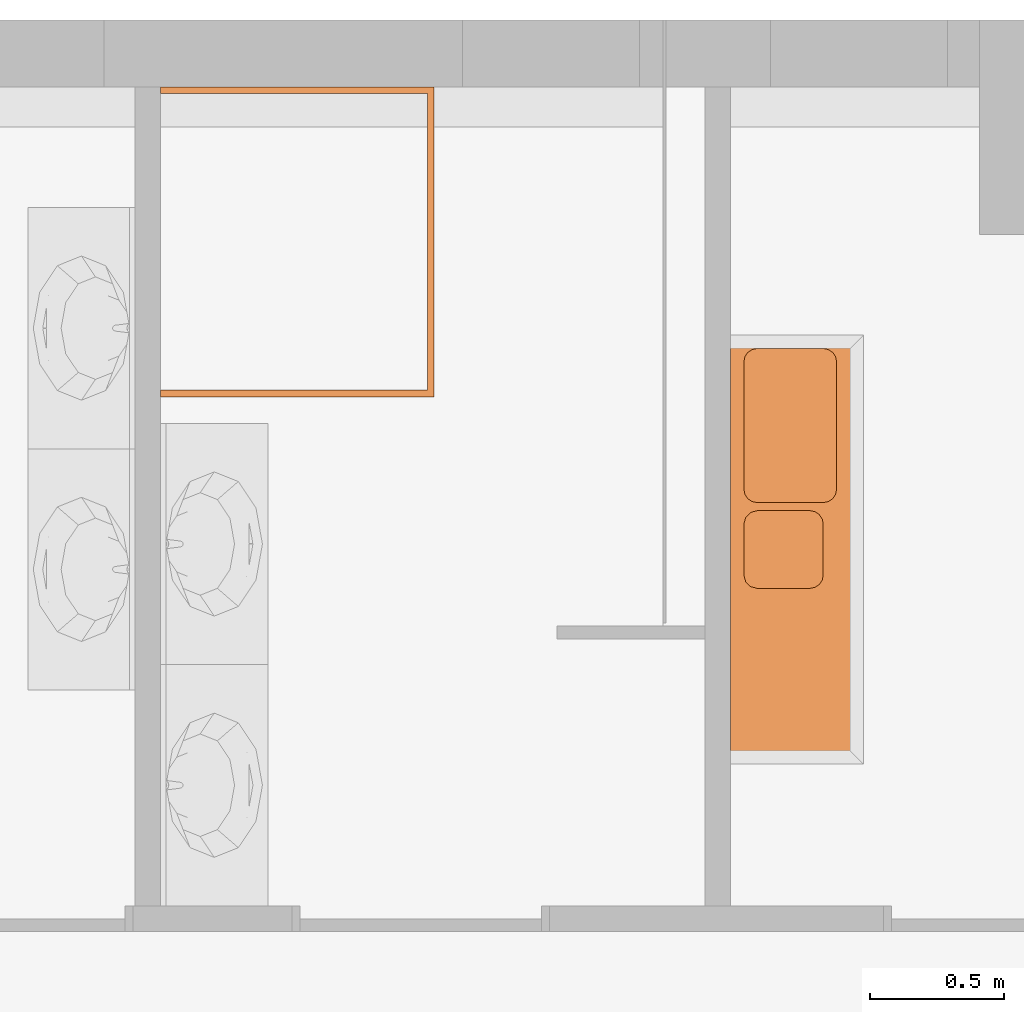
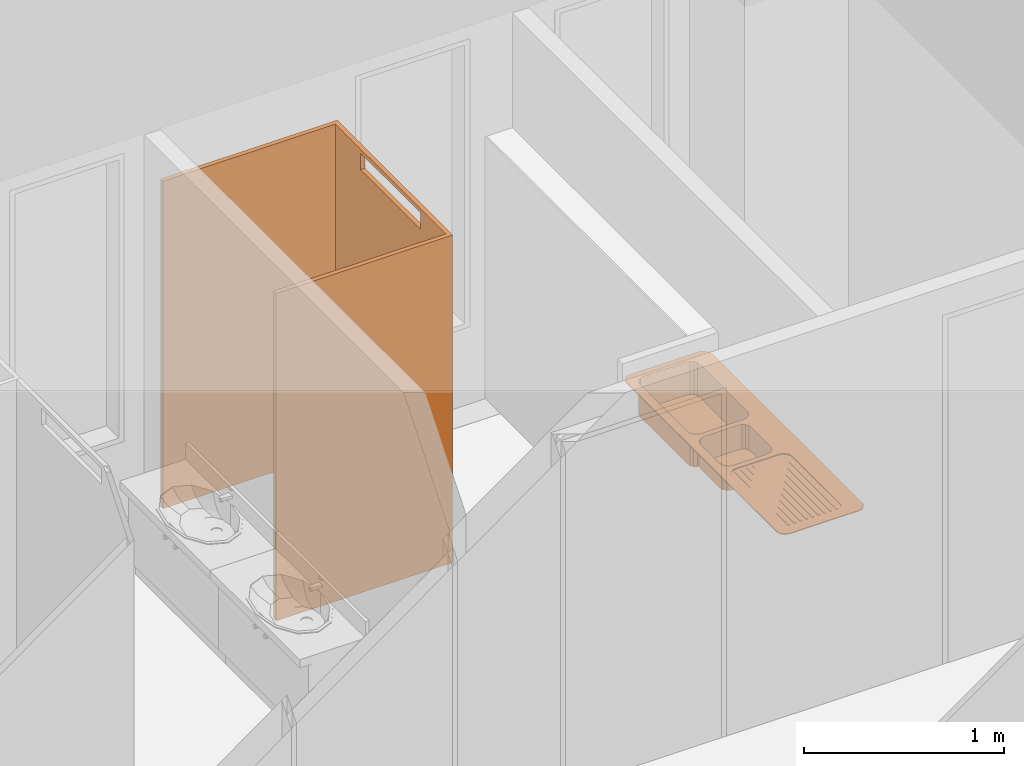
# One storey, part 14 of 14: 2 proxies.
"""IFC2X3 building model written with IfcOpenShell, lengths in millimetres."""

from ifc_helpers import new_model, entity, si_unit, converted_unit, direction, frame, origin_with_axes, place, context, project, spatial, open_shell, faceted_brep, surface_model, material, element, save


model = new_model("IFC2X3")

# Units and contexts
model_context = context("Model", 3, precision=1e-05, world=origin_with_axes(), true_north=direction((0.0, 1.0)))
ifc_project = project(units=[si_unit("LENGTHUNIT", "METRE", prefix="MILLI"), si_unit("AREAUNIT", "SQUARE_METRE"), si_unit("VOLUMEUNIT", "CUBIC_METRE"), converted_unit("PLANEANGLEUNIT", "DEGREE", entity("IfcPlaneAngleMeasure", 0.017453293), si_unit("PLANEANGLEUNIT", "RADIAN"), dimensions=[0, 0, 0, 0, 0, 0, 0]), si_unit("SOLIDANGLEUNIT", "STERADIAN"), si_unit("MASSUNIT", "GRAM"), si_unit("TIMEUNIT", "SECOND"), si_unit("THERMODYNAMICTEMPERATUREUNIT", "DEGREE_CELSIUS"), si_unit("LUMINOUSINTENSITYUNIT", "LUMEN")], contexts=[model_context])

# Site, building, storey
site_placement = place(None, origin_with_axes())
site = spatial("IfcSite", under=ifc_project, at=site_placement, Name="\x83T\x83C\x83g", CompositionType="ELEMENT")
building_placement = place(site_placement, origin_with_axes())
building = spatial("IfcBuilding", under=site, at=building_placement, Name="Daitec-Sample 201208", CompositionType="ELEMENT")
storey_placement = place(building_placement, frame((0.0, 0.0, 8000.0), z_axis=(0.0, 0.0, 1.0), x_axis=(1.0, 0.0, 0.0)))
storey = spatial("IfcBuildingStorey", under=building, at=storey_placement, Name="3F", CompositionType="ELEMENT", Elevation=8000.0)

# Proxies
ifc_material = material(Name="\x94w\x8ci")
proxy_1_placement = place(storey_placement, frame((23171.218, 22624.447, 0.0), z_axis=(0.0, 0.0, 1.0), x_axis=(0.0, -1.0, 0.0)))
element("IfcBuildingElementProxy", 1, at=proxy_1_placement, inside=storey, material=ifc_material, Name="O5", context=model_context, shape_type="SurfaceModel", body=[
    faceted_brep([(50.0, 0.0, 600.0), (1550.0, 0.0, 600.0), (1550.0, 0.0, 605.0), (50.0, 0.0, 605.0), (30.865828, 3.8060234, 600.0), (14.644661, 14.644661, 600.0), (3.8060234, 30.865828, 600.0), (0.0, 50.0, 600.0), (0.0, 446.05787, 600.0), (3.8060234, 465.19204, 600.0), (14.644661, 481.41321, 600.0), (30.865828, 492.25185, 600.0), (50.0, 496.05787, 600.0), (1550.0, 496.05787, 600.0), (1569.1342, 492.25185, 600.0), (1585.3553, 481.41321, 600.0), (1596.194, 465.19204, 600.0), (1600.0, 446.05787, 600.0), (1600.0, 50.0, 600.0), (1593.3013, 25.0, 600.0), (1575.0, 6.6987298, 600.0), (100.0, 50.0, 600.0), (575.0, 50.0, 600.0), (594.13417, 53.806023, 600.0), (610.35534, 64.644661, 600.0), (621.19398, 80.865828, 600.0), (625.0, 100.0, 600.0), (625.0, 346.05787, 600.0), (621.19398, 365.19204, 600.0), (610.35534, 381.41321, 600.0), (594.13417, 392.25185, 600.0), (575.0, 396.05787, 600.0), (100.0, 396.05787, 600.0), (80.865828, 392.25185, 600.0), (64.644661, 381.41321, 600.0), (53.806023, 365.19204, 600.0), (50.0, 346.05787, 600.0), (50.0, 100.0, 600.0), (53.806023, 80.865828, 600.0), (64.644661, 64.644661, 600.0), (80.865828, 53.806023, 600.0), (705.0, 50.0, 600.0), (895.0, 50.0, 600.0), (920.0, 56.69873, 600.0), (938.30127, 75.0, 600.0), (945.0, 100.0, 600.0), (945.0, 296.05787, 600.0), (941.19398, 315.19204, 600.0), (930.35534, 331.41321, 600.0), (914.13417, 342.25185, 600.0), (895.0, 346.05787, 600.0), (705.0, 346.05787, 600.0), (685.86583, 342.25185, 600.0), (669.64466, 331.41321, 600.0), (658.80602, 315.19204, 600.0), (655.0, 296.05787, 600.0), (655.0, 100.0, 600.0), (661.69873, 75.0, 600.0), (680.0, 56.69873, 600.0), (1025.0, 50.0, 600.0), (1500.0, 50.0, 600.0), (1525.0, 56.69873, 600.0), (1543.3013, 75.0, 600.0), (1550.0, 100.0, 600.0), (1550.0, 346.05787, 600.0), (1546.194, 365.19204, 600.0), (1535.3553, 381.41321, 600.0), (1519.1342, 392.25185, 600.0), (1500.0, 396.05787, 600.0), (1025.0, 396.05787, 600.0), (1000.0, 389.35914, 600.0), (981.69873, 371.05787, 600.0), (975.0, 346.05787, 600.0), (975.0, 100.0, 600.0), (978.80602, 80.865828, 600.0), (989.64466, 64.644661, 600.0), (1005.8658, 53.806023, 600.0), (1575.0, 6.6987298, 605.0), (1593.3013, 25.0, 605.0), (1600.0, 50.0, 605.0), (1600.0, 446.05787, 605.0), (1596.194, 465.19204, 605.0), (1585.3553, 481.41321, 605.0), (1569.1342, 492.25185, 605.0), (1550.0, 496.05787, 605.0), (50.0, 496.05787, 605.0), (30.865828, 492.25185, 605.0), (14.644661, 481.41321, 605.0), (3.8060234, 465.19204, 605.0), (0.0, 446.05787, 605.0), (0.0, 50.0, 605.0), (3.8060234, 30.865828, 605.0), (14.644661, 14.644661, 605.0), (30.865828, 3.8060234, 605.0), (100.0, 50.0, 605.0), (80.865828, 53.806023, 605.0), (64.644661, 64.644661, 605.0), (53.806023, 80.865828, 605.0), (50.0, 100.0, 605.0), (50.0, 346.05787, 605.0), (53.806023, 365.19204, 605.0), (64.644661, 381.41321, 605.0), (80.865828, 392.25185, 605.0), (100.0, 396.05787, 605.0), (575.0, 396.05787, 605.0), (594.13417, 392.25185, 605.0), (610.35534, 381.41321, 605.0), (621.19398, 365.19204, 605.0), (625.0, 346.05787, 605.0), (625.0, 100.0, 605.0), (621.19398, 80.865828, 605.0), (610.35534, 64.644661, 605.0), (594.13417, 53.806023, 605.0), (575.0, 50.0, 605.0), (705.0, 50.0, 605.0), (680.0, 56.69873, 605.0), (661.69873, 75.0, 605.0), (655.0, 100.0, 605.0), (655.0, 296.05787, 605.0), (658.80602, 315.19204, 605.0), (669.64466, 331.41321, 605.0), (685.86583, 342.25185, 605.0), (705.0, 346.05787, 605.0), (895.0, 346.05787, 605.0), (914.13417, 342.25185, 605.0), (930.35534, 331.41321, 605.0), (941.19398, 315.19204, 605.0), (945.0, 296.05787, 605.0), (945.0, 100.0, 605.0), (938.30127, 75.0, 605.0), (920.0, 56.69873, 605.0), (895.0, 50.0, 605.0), (1025.0, 50.0, 605.0), (1005.8658, 53.806023, 605.0), (989.64466, 64.644661, 605.0), (978.80602, 80.865828, 605.0), (975.0, 100.0, 605.0), (975.0, 346.05787, 605.0), (981.69873, 371.05787, 605.0), (1000.0, 389.35914, 605.0), (1025.0, 396.05787, 605.0), (1500.0, 396.05787, 605.0), (1519.1342, 392.25185, 605.0), (1535.3553, 381.41321, 605.0), (1546.194, 365.19204, 605.0), (1550.0, 346.05787, 605.0), (1550.0, 100.0, 605.0), (1543.3013, 75.0, 605.0), (1525.0, 56.69873, 605.0), (1500.0, 50.0, 605.0)], [[[0, 1, 2, 3]], [[0, 4, 5, 6, 7, 8, 9, 10, 11, 12, 13, 14, 15, 16, 17, 18, 19, 20, 1], [21, 22, 23, 24, 25, 26, 27, 28, 29, 30, 31, 32, 33, 34, 35, 36, 37, 38, 39, 40], [41, 42, 43, 44, 45, 46, 47, 48, 49, 50, 51, 52, 53, 54, 55, 56, 57, 58], [59, 60, 61, 62, 63, 64, 65, 66, 67, 68, 69, 70, 71, 72, 73, 74, 75, 76]], [[1, 20, 77, 2]], [[3, 2, 77, 78, 79, 80, 81, 82, 83, 84, 85, 86, 87, 88, 89, 90, 91, 92, 93], [94, 95, 96, 97, 98, 99, 100, 101, 102, 103, 104, 105, 106, 107, 108, 109, 110, 111, 112, 113], [114, 115, 116, 117, 118, 119, 120, 121, 122, 123, 124, 125, 126, 127, 128, 129, 130, 131], [132, 133, 134, 135, 136, 137, 138, 139, 140, 141, 142, 143, 144, 145, 146, 147, 148, 149]], [[4, 0, 3, 93]], [[5, 4, 93, 92]], [[6, 5, 92, 91]], [[7, 6, 91, 90]], [[8, 7, 90, 89]], [[9, 8, 89, 88]], [[10, 9, 88, 87]], [[11, 10, 87, 86]], [[12, 11, 86, 85]], [[13, 12, 85, 84]], [[14, 13, 84, 83]], [[15, 14, 83, 82]], [[16, 15, 82, 81]], [[17, 16, 81, 80]], [[18, 17, 80, 79]], [[19, 18, 79, 78]], [[20, 19, 78, 77]], [[22, 21, 94, 113]], [[23, 22, 113, 112]], [[24, 23, 112, 111]], [[25, 24, 111, 110]], [[26, 25, 110, 109]], [[27, 26, 109, 108]], [[28, 27, 108, 107]], [[29, 28, 107, 106]], [[30, 29, 106, 105]], [[31, 30, 105, 104]], [[32, 31, 104, 103]], [[33, 32, 103, 102]], [[34, 33, 102, 101]], [[35, 34, 101, 100]], [[36, 35, 100, 99]], [[37, 36, 99, 98]], [[38, 37, 98, 97]], [[39, 38, 97, 96]], [[40, 39, 96, 95]], [[21, 40, 95, 94]], [[42, 41, 114, 131]], [[43, 42, 131, 130]], [[44, 43, 130, 129]], [[45, 44, 129, 128]], [[46, 45, 128, 127]], [[47, 46, 127, 126]], [[48, 47, 126, 125]], [[49, 48, 125, 124]], [[50, 49, 124, 123]], [[51, 50, 123, 122]], [[52, 51, 122, 121]], [[53, 52, 121, 120]], [[54, 53, 120, 119]], [[55, 54, 119, 118]], [[56, 55, 118, 117]], [[57, 56, 117, 116]], [[58, 57, 116, 115]], [[41, 58, 115, 114]], [[60, 59, 132, 149]], [[61, 60, 149, 148]], [[62, 61, 148, 147]], [[63, 62, 147, 146]], [[64, 63, 146, 145]], [[65, 64, 145, 144]], [[66, 65, 144, 143]], [[67, 66, 143, 142]], [[68, 67, 142, 141]], [[69, 68, 141, 140]], [[70, 69, 140, 139]], [[71, 70, 139, 138]], [[72, 71, 138, 137]], [[73, 72, 137, 136]], [[74, 73, 136, 135]], [[75, 74, 135, 134]], [[76, 75, 134, 133]], [[59, 76, 133, 132]]]),
    faceted_brep([(1025.0, 50.0, 595.0), (1500.0, 50.0, 595.0), (1500.0, 50.0, 600.0), (1025.0, 50.0, 600.0), (1005.8658, 53.806023, 595.0), (989.64466, 64.644661, 595.0), (978.80602, 80.865828, 595.0), (975.0, 100.0, 595.0), (975.0, 346.05787, 595.0), (981.69873, 371.05787, 595.0), (1000.0, 389.35914, 595.0), (1025.0, 396.05787, 595.0), (1500.0, 396.05787, 595.0), (1519.1342, 392.25185, 595.0), (1535.3553, 381.41321, 595.0), (1546.194, 365.19204, 595.0), (1550.0, 346.05787, 595.0), (1550.0, 100.0, 595.0), (1543.3013, 75.0, 595.0), (1525.0, 56.69873, 595.0), (1525.0, 56.69873, 600.0), (1543.3013, 75.0, 600.0), (1550.0, 100.0, 600.0), (1550.0, 346.05787, 600.0), (1546.194, 365.19204, 600.0), (1535.3553, 381.41321, 600.0), (1519.1342, 392.25185, 600.0), (1500.0, 396.05787, 600.0), (1025.0, 396.05787, 600.0), (1000.0, 389.35914, 600.0), (981.69873, 371.05787, 600.0), (975.0, 346.05787, 600.0), (975.0, 100.0, 600.0), (978.80602, 80.865828, 600.0), (989.64466, 64.644661, 600.0), (1005.8658, 53.806023, 600.0)], [[[0, 1, 2, 3]], [[0, 4, 5, 6, 7, 8, 9, 10, 11, 12, 13, 14, 15, 16, 17, 18, 19, 1]], [[1, 19, 20, 2]], [[3, 2, 20, 21, 22, 23, 24, 25, 26, 27, 28, 29, 30, 31, 32, 33, 34, 35]], [[4, 0, 3, 35]], [[5, 4, 35, 34]], [[6, 5, 34, 33]], [[7, 6, 33, 32]], [[8, 7, 32, 31]], [[9, 8, 31, 30]], [[10, 9, 30, 29]], [[11, 10, 29, 28]], [[12, 11, 28, 27]], [[13, 12, 27, 26]], [[14, 13, 26, 25]], [[15, 14, 25, 24]], [[16, 15, 24, 23]], [[17, 16, 23, 22]], [[18, 17, 22, 21]], [[19, 18, 21, 20]]]),
    faceted_brep([(995.0, 80.0, 600.0), (1530.0, 80.0, 600.0), (1530.0, 80.0, 602.0), (995.0, 80.0, 602.0), (995.0, 90.0, 600.0), (1530.0, 90.0, 600.0), (1530.0, 90.0, 602.0), (995.0, 90.0, 602.0)], [[[0, 1, 2, 3]], [[0, 4, 5, 1]], [[1, 5, 6, 2]], [[3, 2, 6, 7]], [[4, 0, 3, 7]], [[5, 4, 7, 6]]]),
    faceted_brep([(995.0, 114.83034, 600.0), (1530.0, 114.83034, 600.0), (1530.0, 114.83034, 602.0), (995.0, 114.83034, 602.0), (995.0, 124.83034, 600.0), (1530.0, 124.83034, 600.0), (1530.0, 124.83034, 602.0), (995.0, 124.83034, 602.0)], [[[0, 1, 2, 3]], [[0, 4, 5, 1]], [[1, 5, 6, 2]], [[3, 2, 6, 7]], [[4, 0, 3, 7]], [[5, 4, 7, 6]]]),
    faceted_brep([(995.0, 149.66068, 600.0), (1530.0, 149.66068, 600.0), (1530.0, 149.66068, 602.0), (995.0, 149.66068, 602.0), (995.0, 159.66068, 600.0), (1530.0, 159.66068, 600.0), (1530.0, 159.66068, 602.0), (995.0, 159.66068, 602.0)], [[[0, 1, 2, 3]], [[0, 4, 5, 1]], [[1, 5, 6, 2]], [[3, 2, 6, 7]], [[4, 0, 3, 7]], [[5, 4, 7, 6]]]),
    faceted_brep([(995.0, 184.49101, 600.0), (1530.0, 184.49101, 600.0), (1530.0, 184.49101, 602.0), (995.0, 184.49101, 602.0), (995.0, 194.49101, 600.0), (1530.0, 194.49101, 600.0), (1530.0, 194.49101, 602.0), (995.0, 194.49101, 602.0)], [[[0, 1, 2, 3]], [[0, 4, 5, 1]], [[1, 5, 6, 2]], [[3, 2, 6, 7]], [[4, 0, 3, 7]], [[5, 4, 7, 6]]]),
    faceted_brep([(995.0, 219.32135, 600.0), (1530.0, 219.32135, 600.0), (1530.0, 219.32135, 602.0), (995.0, 219.32135, 602.0), (995.0, 229.32135, 600.0), (1530.0, 229.32135, 600.0), (1530.0, 229.32135, 602.0), (995.0, 229.32135, 602.0)], [[[0, 1, 2, 3]], [[0, 4, 5, 1]], [[1, 5, 6, 2]], [[3, 2, 6, 7]], [[4, 0, 3, 7]], [[5, 4, 7, 6]]]),
    faceted_brep([(995.0, 254.15169, 600.0), (1530.0, 254.15169, 600.0), (1530.0, 254.15169, 602.0), (995.0, 254.15169, 602.0), (995.0, 264.15169, 600.0), (1530.0, 264.15169, 600.0), (1530.0, 264.15169, 602.0), (995.0, 264.15169, 602.0)], [[[0, 1, 2, 3]], [[0, 4, 5, 1]], [[1, 5, 6, 2]], [[3, 2, 6, 7]], [[4, 0, 3, 7]], [[5, 4, 7, 6]]]),
    faceted_brep([(995.0, 288.98203, 600.0), (1530.0, 288.98203, 600.0), (1530.0, 288.98203, 602.0), (995.0, 288.98203, 602.0), (995.0, 298.98203, 600.0), (1530.0, 298.98203, 600.0), (1530.0, 298.98203, 602.0), (995.0, 298.98203, 602.0)], [[[0, 1, 2, 3]], [[0, 4, 5, 1]], [[1, 5, 6, 2]], [[3, 2, 6, 7]], [[4, 0, 3, 7]], [[5, 4, 7, 6]]]),
    faceted_brep([(995.0, 323.81237, 600.0), (1530.0, 323.81237, 600.0), (1530.0, 323.81237, 602.0), (995.0, 323.81237, 602.0), (995.0, 333.81237, 600.0), (1530.0, 333.81237, 600.0), (1530.0, 333.81237, 602.0), (995.0, 333.81237, 602.0)], [[[0, 1, 2, 3]], [[0, 4, 5, 1]], [[1, 5, 6, 2]], [[3, 2, 6, 7]], [[4, 0, 3, 7]], [[5, 4, 7, 6]]]),
    faceted_brep([(995.0, 358.6427, 600.0), (1530.0, 358.6427, 600.0), (1530.0, 358.6427, 602.0), (995.0, 358.6427, 602.0), (995.0, 368.6427, 600.0), (1530.0, 368.6427, 600.0), (1530.0, 368.6427, 602.0), (995.0, 368.6427, 602.0)], [[[0, 1, 2, 3]], [[0, 4, 5, 1]], [[1, 5, 6, 2]], [[3, 2, 6, 7]], [[4, 0, 3, 7]], [[5, 4, 7, 6]]]),
    surface_model("IfcShellBasedSurfaceModel", [(100.0, 50.0, 405.0), (575.0, 50.0, 405.0), (575.0, 50.0, 600.0), (100.0, 50.0, 600.0), (80.865828, 53.806023, 405.0), (64.644661, 64.644661, 405.0), (53.806023, 80.865828, 405.0), (50.0, 100.0, 405.0), (50.0, 346.05787, 405.0), (53.806023, 365.19204, 405.0), (64.644661, 381.41321, 405.0), (80.865828, 392.25185, 405.0), (100.0, 396.05787, 405.0), (575.0, 396.05787, 405.0), (594.13417, 392.25185, 405.0), (610.35534, 381.41321, 405.0), (621.19398, 365.19204, 405.0), (625.0, 346.05787, 405.0), (625.0, 100.0, 405.0), (621.19398, 80.865828, 405.0), (610.35534, 64.644661, 405.0), (594.13417, 53.806023, 405.0), (594.13417, 53.806023, 600.0), (80.865828, 53.806023, 600.0), (64.644661, 64.644661, 600.0), (53.806023, 80.865828, 600.0), (50.0, 100.0, 600.0), (50.0, 346.05787, 600.0), (53.806023, 365.19204, 600.0), (64.644661, 381.41321, 600.0), (80.865828, 392.25185, 600.0), (100.0, 396.05787, 600.0), (575.0, 396.05787, 600.0), (594.13417, 392.25185, 600.0), (610.35534, 381.41321, 600.0), (621.19398, 365.19204, 600.0), (625.0, 346.05787, 600.0), (625.0, 100.0, 600.0), (621.19398, 80.865828, 600.0), (610.35534, 64.644661, 600.0)], [open_shell([[[0, 1, 2, 3]], [[0, 4, 5, 6, 7, 8, 9, 10, 11, 12, 13, 14, 15, 16, 17, 18, 19, 20, 21, 1]], [[1, 21, 22, 2]], [[4, 0, 3, 23]], [[5, 4, 23, 24]], [[6, 5, 24, 25]], [[7, 6, 25, 26]], [[8, 7, 26, 27]], [[9, 8, 27, 28]], [[10, 9, 28, 29]], [[11, 10, 29, 30]], [[12, 11, 30, 31]], [[13, 12, 31, 32]], [[14, 13, 32, 33]], [[15, 14, 33, 34]], [[16, 15, 34, 35]], [[17, 16, 35, 36]], [[18, 17, 36, 37]], [[19, 18, 37, 38]], [[20, 19, 38, 39]], [[21, 20, 39, 22]]])]),
    surface_model("IfcShellBasedSurfaceModel", [(705.0, 50.0, 455.0), (895.0, 50.0, 455.0), (895.0, 50.0, 600.0), (705.0, 50.0, 600.0), (680.0, 56.69873, 455.0), (661.69873, 75.0, 455.0), (655.0, 100.0, 455.0), (655.0, 296.05787, 455.0), (658.80602, 315.19204, 455.0), (669.64466, 331.41321, 455.0), (685.86583, 342.25185, 455.0), (705.0, 346.05787, 455.0), (895.0, 346.05787, 455.0), (914.13417, 342.25185, 455.0), (930.35534, 331.41321, 455.0), (941.19398, 315.19204, 455.0), (945.0, 296.05787, 455.0), (945.0, 100.0, 455.0), (938.30127, 75.0, 455.0), (920.0, 56.69873, 455.0), (920.0, 56.69873, 600.0), (680.0, 56.69873, 600.0), (661.69873, 75.0, 600.0), (655.0, 100.0, 600.0), (655.0, 296.05787, 600.0), (658.80602, 315.19204, 600.0), (669.64466, 331.41321, 600.0), (685.86583, 342.25185, 600.0), (705.0, 346.05787, 600.0), (895.0, 346.05787, 600.0), (914.13417, 342.25185, 600.0), (930.35534, 331.41321, 600.0), (941.19398, 315.19204, 600.0), (945.0, 296.05787, 600.0), (945.0, 100.0, 600.0), (938.30127, 75.0, 600.0)], [open_shell([[[0, 1, 2, 3]], [[0, 4, 5, 6, 7, 8, 9, 10, 11, 12, 13, 14, 15, 16, 17, 18, 19, 1]], [[1, 19, 20, 2]], [[4, 0, 3, 21]], [[5, 4, 21, 22]], [[6, 5, 22, 23]], [[7, 6, 23, 24]], [[8, 7, 24, 25]], [[9, 8, 25, 26]], [[10, 9, 26, 27]], [[11, 10, 27, 28]], [[12, 11, 28, 29]], [[13, 12, 29, 30]], [[14, 13, 30, 31]], [[15, 14, 31, 32]], [[16, 15, 32, 33]], [[17, 16, 33, 34]], [[18, 17, 34, 35]], [[19, 18, 35, 20]]])]),
])
proxy_2_placement = place(storey_placement, frame((22065.041, 22394.354, 0.0), z_axis=(0.0, 0.0, 1.0), x_axis=(0.0, 1.0, 0.0)))
element("IfcBuildingElementProxy", 2, at=proxy_2_placement, inside=storey, material=ifc_material, Name="O0", CompositionType="ELEMENT", context=model_context, shape_type="Brep", body=[
    faceted_brep([(0.0, 0.0, 200.0), (277.82295, 0.0, 200.0), (277.82295, 0.0, 1975.0), (0.0, 0.0, 1975.0), (0.0, 25.0, 200.0), (277.82295, 25.0, 200.0), (277.82295, 25.0, 1975.0), (0.0, 25.0, 1975.0)], [[[0, 1, 2, 3]], [[0, 4, 5, 1]], [[1, 5, 6, 2]], [[3, 2, 6, 7]], [[4, 0, 3, 7]], [[5, 4, 7, 6]]]),
    faceted_brep([(877.82295, 0.0, 200.0), (1155.6459, 0.0, 200.0), (1155.6459, 0.0, 1975.0), (877.82295, 0.0, 1975.0), (877.82295, 25.0, 200.0), (1155.6459, 25.0, 200.0), (1155.6459, 25.0, 1975.0), (877.82295, 25.0, 1975.0)], [[[0, 1, 2, 3]], [[0, 4, 5, 1]], [[1, 5, 6, 2]], [[3, 2, 6, 7]], [[4, 0, 3, 7]], [[5, 4, 7, 6]]]),
    faceted_brep([(0.0, 0.0, 0.0), (277.82295, 0.0, 0.0), (277.82295, 0.0, 200.0), (0.0, 0.0, 200.0), (0.0, 25.0, 0.0), (277.82295, 25.0, 0.0), (277.82295, 25.0, 200.0), (0.0, 25.0, 200.0)], [[[0, 1, 2, 3]], [[0, 4, 5, 1]], [[1, 5, 6, 2]], [[3, 2, 6, 7]], [[4, 0, 3, 7]], [[5, 4, 7, 6]]]),
    faceted_brep([(877.82295, 0.0, 0.0), (1155.6459, 0.0, 0.0), (1155.6459, 0.0, 200.0), (877.82295, 0.0, 200.0), (877.82295, 25.0, 0.0), (1155.6459, 25.0, 0.0), (1155.6459, 25.0, 200.0), (877.82295, 25.0, 200.0)], [[[0, 1, 2, 3]], [[0, 4, 5, 1]], [[1, 5, 6, 2]], [[3, 2, 6, 7]], [[4, 0, 3, 7]], [[5, 4, 7, 6]]]),
    faceted_brep([(1155.6459, 0.0, 1975.0), (1155.6459, 25.0, 1975.0), (1155.6459, 25.0, 2000.0), (1155.6459, 0.0, 2000.0), (0.0, 0.0, 1975.0), (0.0, 25.0, 1975.0), (0.0, 25.0, 2000.0), (0.0, 0.0, 2000.0)], [[[0, 1, 2, 3]], [[0, 4, 5, 1]], [[1, 5, 6, 2]], [[3, 2, 6, 7]], [[4, 0, 3, 7]], [[5, 4, 7, 6]]]),
    faceted_brep([(277.82295, 0.0, 50.0), (877.82295, 0.0, 50.0), (877.82295, 0.0, 1875.0), (277.82295, 0.0, 1875.0), (277.82295, 25.0, 50.0), (877.82295, 25.0, 50.0), (877.82295, 25.0, 1875.0), (277.82295, 25.0, 1875.0)], [[[0, 1, 2, 3]], [[0, 4, 5, 1]], [[1, 5, 6, 2]], [[3, 2, 6, 7]], [[4, 0, 3, 7]], [[5, 4, 7, 6]]]),
    faceted_brep([(25.0, 25.0, 0.0), (25.0, 1019.9703, 0.0), (25.0, 1019.9703, 2000.0), (25.0, 25.0, 2000.0), (0.0, 25.0, 0.0), (0.0, 1019.9703, 0.0), (0.0, 1019.9703, 2000.0), (0.0, 25.0, 2000.0)], [[[0, 1, 2, 3]], [[0, 4, 5, 1]], [[1, 5, 6, 2]], [[3, 2, 6, 7]], [[4, 0, 3, 7]], [[5, 4, 7, 6]]]),
    faceted_brep([(25.0, 25.0, 1775.0), (25.0, 1019.9703, 1775.0), (25.0, 1019.9703, 1800.0), (25.0, 25.0, 1800.0), (0.0, 25.0, 1775.0), (0.0, 1019.9703, 1775.0), (0.0, 1019.9703, 1800.0), (0.0, 25.0, 1800.0)], [[[0, 1, 2, 3]], [[0, 4, 5, 1]], [[1, 5, 6, 2]], [[3, 2, 6, 7]], [[4, 0, 3, 7]], [[5, 4, 7, 6]]]),
    faceted_brep([(1155.6459, 25.0, 0.0), (1155.6459, 1019.9703, 0.0), (1155.6459, 1019.9703, 2000.0), (1155.6459, 25.0, 2000.0), (1130.6459, 25.0, 0.0), (1130.6459, 1019.9703, 0.0), (1130.6459, 1019.9703, 2000.0), (1130.6459, 25.0, 2000.0)], [[[0, 1, 2, 3]], [[0, 4, 5, 1]], [[1, 5, 6, 2]], [[3, 2, 6, 7]], [[4, 0, 3, 7]], [[5, 4, 7, 6]]]),
    faceted_brep([(1155.6459, 25.0, 1775.0), (1155.6459, 1019.9703, 1775.0), (1155.6459, 1019.9703, 1800.0), (1155.6459, 25.0, 1800.0), (1130.6459, 25.0, 1775.0), (1130.6459, 1019.9703, 1775.0), (1130.6459, 1019.9703, 1800.0), (1130.6459, 25.0, 1800.0)], [[[0, 1, 2, 3]], [[0, 4, 5, 1]], [[1, 5, 6, 2]], [[3, 2, 6, 7]], [[4, 0, 3, 7]], [[5, 4, 7, 6]]]),
])

save(model, "model.ifc")
